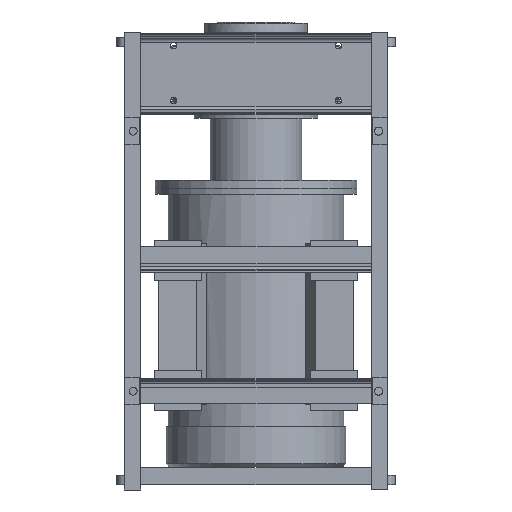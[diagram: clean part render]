
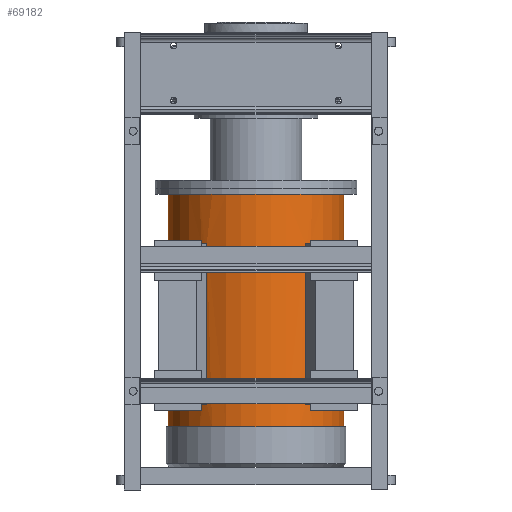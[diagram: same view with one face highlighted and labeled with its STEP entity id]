
A CAD part, front view. The second image highlights one B-rep face of the part: STEP entity #69182.
In plain terms, the highlighted cylindrical face has radius 240 mm (diameter 480 mm), a partial arc.
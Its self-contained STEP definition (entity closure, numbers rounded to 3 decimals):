
#1946 = DIRECTION ( 'NONE',  ( 0., 0., 1. ) ) ;
#5918 = DIRECTION ( 'NONE',  ( 0., 0., -1. ) ) ;
#7312 = AXIS2_PLACEMENT_3D ( 'NONE', #64261, #15669, #24622 ) ;
#7701 = DIRECTION ( 'NONE',  ( 1., 0., 0. ) ) ;
#7777 = ORIENTED_EDGE ( 'NONE', *, *, #42152, .T. ) ;
#8056 = EDGE_CURVE ( 'NONE', #56439, #36186, #73343, .T. ) ;
#9235 = VECTOR ( 'NONE', #56686, 1000. ) ;
#10270 = DIRECTION ( 'NONE',  ( -1., 0., 0. ) ) ;
#11154 = CARTESIAN_POINT ( 'NONE',  ( 240., 0., -964.8 ) ) ;
#11999 = CARTESIAN_POINT ( 'NONE',  ( -134.196, -198.976, -464.8 ) ) ;
#13640 = VECTOR ( 'NONE', #93564, 1000. ) ;
#15669 = DIRECTION ( 'NONE',  ( 0., 0., 1. ) ) ;
#16007 = ORIENTED_EDGE ( 'NONE', *, *, #8056, .F. ) ;
#17355 = DIRECTION ( 'NONE',  ( 0., 0., -1. ) ) ;
#18683 = EDGE_CURVE ( 'NONE', #25681, #91913, #27578, .T. ) ;
#18931 = AXIS2_PLACEMENT_3D ( 'NONE', #20521, #20931, #10270 ) ;
#19680 = ORIENTED_EDGE ( 'NONE', *, *, #18683, .T. ) ;
#19758 = LINE ( 'NONE', #84192, #13640 ) ;
#19855 = AXIS2_PLACEMENT_3D ( 'NONE', #22967, #41721, #42545 ) ;
#20115 = ORIENTED_EDGE ( 'NONE', *, *, #67669, .T. ) ;
#20155 = CARTESIAN_POINT ( 'NONE',  ( -148.813, -188.294, -464.8 ) ) ;
#20521 = CARTESIAN_POINT ( 'NONE',  ( 0., 0., -964.8 ) ) ;
#20931 = DIRECTION ( 'NONE',  ( 0., 0., -1. ) ) ;
#22967 = CARTESIAN_POINT ( 'NONE',  ( 0., 0., -904.8 ) ) ;
#24622 = DIRECTION ( 'NONE',  ( -1., 0., 0. ) ) ;
#24839 = VERTEX_POINT ( 'NONE', #26631 ) ;
#25373 = ORIENTED_EDGE ( 'NONE', *, *, #85395, .T. ) ;
#25681 = VERTEX_POINT ( 'NONE', #39102 ) ;
#26631 = CARTESIAN_POINT ( 'NONE',  ( -134.196, -198.976, -904.8 ) ) ;
#26895 = CARTESIAN_POINT ( 'NONE',  ( 0., 0., -904.8 ) ) ;
#26922 = VERTEX_POINT ( 'NONE', #37400 ) ;
#27578 = LINE ( 'NONE', #104616, #62689 ) ;
#27903 = ORIENTED_EDGE ( 'NONE', *, *, #34097, .T. ) ;
#28072 = DIRECTION ( 'NONE',  ( 0., 0., -1. ) ) ;
#33907 = EDGE_LOOP ( 'NONE', ( #83702, #20115, #80230, #54663 ) ) ;
#34097 = EDGE_CURVE ( 'NONE', #26922, #43179, #68662, .T. ) ;
#35136 = VECTOR ( 'NONE', #1946, 1000. ) ;
#36186 = VERTEX_POINT ( 'NONE', #11154 ) ;
#37400 = CARTESIAN_POINT ( 'NONE',  ( 148.813, -188.294, -464.8 ) ) ;
#38713 = CARTESIAN_POINT ( 'NONE',  ( 240., 0., -1075.8 ) ) ;
#38899 = ORIENTED_EDGE ( 'NONE', *, *, #72089, .T. ) ;
#39102 = CARTESIAN_POINT ( 'NONE',  ( 134.196, -198.976, -904.8 ) ) ;
#39112 = CARTESIAN_POINT ( 'NONE',  ( 148.813, -188.294, -1075.8 ) ) ;
#40368 = CARTESIAN_POINT ( 'NONE',  ( -240., 0., -330.8 ) ) ;
#40873 = FACE_OUTER_BOUND ( 'NONE', #83274, .T. ) ;
#40915 = EDGE_LOOP ( 'NONE', ( #99003, #19680, #25373, #27903 ) ) ;
#41721 = DIRECTION ( 'NONE',  ( 0., 0., 1. ) ) ;
#42152 = EDGE_CURVE ( 'NONE', #56439, #108489, #102929, .T. ) ;
#42545 = DIRECTION ( 'NONE',  ( -1., 0., 0. ) ) ;
#43179 = VERTEX_POINT ( 'NONE', #118102 ) ;
#45676 = DIRECTION ( 'NONE',  ( 0., 0., -1. ) ) ;
#49111 = VERTEX_POINT ( 'NONE', #81352 ) ;
#51490 = ORIENTED_EDGE ( 'NONE', *, *, #61154, .F. ) ;
#53165 = VERTEX_POINT ( 'NONE', #20155 ) ;
#54663 = ORIENTED_EDGE ( 'NONE', *, *, #58700, .F. ) ;
#55365 = CIRCLE ( 'NONE', #64670, 240. ) ;
#56019 = DIRECTION ( 'NONE',  ( 0., 0., 1. ) ) ;
#56439 = VERTEX_POINT ( 'NONE', #95020 ) ;
#56686 = DIRECTION ( 'NONE',  ( 0., 0., -1. ) ) ;
#56811 = DIRECTION ( 'NONE',  ( 1., 0., 0. ) ) ;
#57372 = DIRECTION ( 'NONE',  ( -1., 0., 0. ) ) ;
#58700 = EDGE_CURVE ( 'NONE', #97661, #53165, #55365, .T. ) ;
#61154 = EDGE_CURVE ( 'NONE', #36186, #105163, #62814, .T. ) ;
#62052 = AXIS2_PLACEMENT_3D ( 'NONE', #106824, #77807, #57372 ) ;
#62311 = LINE ( 'NONE', #95791, #94371 ) ;
#62689 = VECTOR ( 'NONE', #56019, 1000. ) ;
#62814 = CIRCLE ( 'NONE', #18931, 240. ) ;
#64261 = CARTESIAN_POINT ( 'NONE',  ( 0., 0., -464.8 ) ) ;
#64670 = AXIS2_PLACEMENT_3D ( 'NONE', #105421, #86668, #56811 ) ;
#65687 = CIRCLE ( 'NONE', #19855, 240. ) ;
#65935 = AXIS2_PLACEMENT_3D ( 'NONE', #26895, #45676, #7701 ) ;
#67669 = EDGE_CURVE ( 'NONE', #24839, #49111, #86864, .T. ) ;
#68662 = LINE ( 'NONE', #39112, #105430 ) ;
#69182 = ADVANCED_FACE ( 'NONE', ( #40873, #72916, #124858 ), #97288, .T. ) ;
#71070 = EDGE_CURVE ( 'NONE', #24839, #97661, #122188, .T. ) ;
#72089 = EDGE_CURVE ( 'NONE', #108489, #105163, #62311, .T. ) ;
#72916 = FACE_BOUND ( 'NONE', #40915, .T. ) ;
#73343 = LINE ( 'NONE', #38713, #9235 ) ;
#76281 = CIRCLE ( 'NONE', #7312, 240. ) ;
#77807 = DIRECTION ( 'NONE',  ( 0., 0., -1. ) ) ;
#78272 = AXIS2_PLACEMENT_3D ( 'NONE', #93333, #5918, #121927 ) ;
#79496 = CARTESIAN_POINT ( 'NONE',  ( 134.196, -198.976, -464.8 ) ) ;
#80230 = ORIENTED_EDGE ( 'NONE', *, *, #110810, .F. ) ;
#81352 = CARTESIAN_POINT ( 'NONE',  ( -148.813, -188.294, -904.8 ) ) ;
#83274 = EDGE_LOOP ( 'NONE', ( #16007, #7777, #38899, #51490 ) ) ;
#83702 = ORIENTED_EDGE ( 'NONE', *, *, #71070, .F. ) ;
#84192 = CARTESIAN_POINT ( 'NONE',  ( -148.813, -188.294, -1075.8 ) ) ;
#85395 = EDGE_CURVE ( 'NONE', #91913, #26922, #76281, .T. ) ;
#86668 = DIRECTION ( 'NONE',  ( 0., 0., -1. ) ) ;
#86864 = CIRCLE ( 'NONE', #65935, 240. ) ;
#91913 = VERTEX_POINT ( 'NONE', #79496 ) ;
#93333 = CARTESIAN_POINT ( 'NONE',  ( 0., 0., -1075.8 ) ) ;
#93564 = DIRECTION ( 'NONE',  ( 0., 0., -1. ) ) ;
#94371 = VECTOR ( 'NONE', #17355, 1000. ) ;
#95020 = CARTESIAN_POINT ( 'NONE',  ( 240., 0., -330.8 ) ) ;
#95791 = CARTESIAN_POINT ( 'NONE',  ( -240., 0., -1075.8 ) ) ;
#97288 = CYLINDRICAL_SURFACE ( 'NONE', #78272, 240. ) ;
#97661 = VERTEX_POINT ( 'NONE', #11999 ) ;
#99003 = ORIENTED_EDGE ( 'NONE', *, *, #104809, .F. ) ;
#102929 = CIRCLE ( 'NONE', #62052, 240. ) ;
#104616 = CARTESIAN_POINT ( 'NONE',  ( 134.196, -198.976, -1075.8 ) ) ;
#104809 = EDGE_CURVE ( 'NONE', #25681, #43179, #65687, .T. ) ;
#105163 = VERTEX_POINT ( 'NONE', #110699 ) ;
#105421 = CARTESIAN_POINT ( 'NONE',  ( 0., 0., -464.8 ) ) ;
#105430 = VECTOR ( 'NONE', #28072, 1000. ) ;
#106824 = CARTESIAN_POINT ( 'NONE',  ( 0., 0., -330.8 ) ) ;
#108489 = VERTEX_POINT ( 'NONE', #40368 ) ;
#108974 = CARTESIAN_POINT ( 'NONE',  ( -134.196, -198.976, -1075.8 ) ) ;
#110699 = CARTESIAN_POINT ( 'NONE',  ( -240., 0., -964.8 ) ) ;
#110810 = EDGE_CURVE ( 'NONE', #53165, #49111, #19758, .T. ) ;
#118102 = CARTESIAN_POINT ( 'NONE',  ( 148.813, -188.294, -904.8 ) ) ;
#121927 = DIRECTION ( 'NONE',  ( -1., 0., 0. ) ) ;
#122188 = LINE ( 'NONE', #108974, #35136 ) ;
#124858 = FACE_BOUND ( 'NONE', #33907, .T. ) ;
